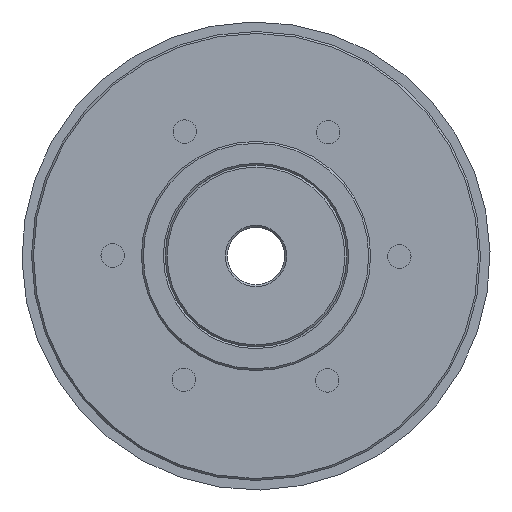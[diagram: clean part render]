
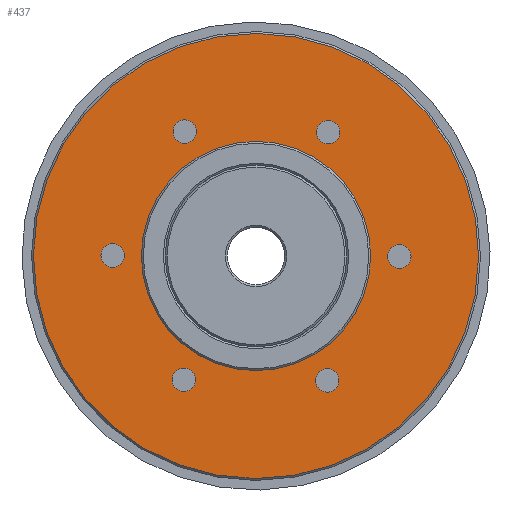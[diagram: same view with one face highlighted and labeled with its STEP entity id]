
A CAD part, left-side view. The second image highlights one B-rep face of the part: STEP entity #437.
In plain terms, the highlighted planar face has unit normal (-1, 0, 0).
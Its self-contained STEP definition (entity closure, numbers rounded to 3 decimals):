
#437 = ADVANCED_FACE( '', ( #874, #875, #876, #877, #878, #879, #880, #881 ), #882, .T. );
#874 = FACE_BOUND( '', #1363, .T. );
#875 = FACE_BOUND( '', #1364, .T. );
#876 = FACE_BOUND( '', #1365, .T. );
#877 = FACE_BOUND( '', #1366, .T. );
#878 = FACE_BOUND( '', #1367, .T. );
#879 = FACE_BOUND( '', #1368, .T. );
#880 = FACE_OUTER_BOUND( '', #1369, .T. );
#881 = FACE_BOUND( '', #1370, .T. );
#882 = PLANE( '', #1371 );
#1363 = EDGE_LOOP( '', ( #2013 ) );
#1364 = EDGE_LOOP( '', ( #2014 ) );
#1365 = EDGE_LOOP( '', ( #2015 ) );
#1366 = EDGE_LOOP( '', ( #2016 ) );
#1367 = EDGE_LOOP( '', ( #2017 ) );
#1368 = EDGE_LOOP( '', ( #2018 ) );
#1369 = EDGE_LOOP( '', ( #2019 ) );
#1370 = EDGE_LOOP( '', ( #2020 ) );
#1371 = AXIS2_PLACEMENT_3D( '', #2021, #2022, #2023 );
#2013 = ORIENTED_EDGE( '', *, *, #2599, .T. );
#2014 = ORIENTED_EDGE( '', *, *, #2600, .T. );
#2015 = ORIENTED_EDGE( '', *, *, #2547, .T. );
#2016 = ORIENTED_EDGE( '', *, *, #2601, .T. );
#2017 = ORIENTED_EDGE( '', *, *, #2602, .T. );
#2018 = ORIENTED_EDGE( '', *, *, #2437, .T. );
#2019 = ORIENTED_EDGE( '', *, *, #2491, .T. );
#2020 = ORIENTED_EDGE( '', *, *, #2589, .F. );
#2021 = CARTESIAN_POINT( '', ( 5.5, 0., 12. ) );
#2022 = DIRECTION( '', ( -1., 0., 0. ) );
#2023 = DIRECTION( '', ( 0., 0., 1. ) );
#2437 = EDGE_CURVE( '', #2752, #2752, #2753, .T. );
#2491 = EDGE_CURVE( '', #2842, #2842, #2843, .T. );
#2547 = EDGE_CURVE( '', #2929, #2929, #2930, .T. );
#2589 = EDGE_CURVE( '', #2991, #2991, #2992, .T. );
#2599 = EDGE_CURVE( '', #3005, #3005, #3006, .T. );
#2600 = EDGE_CURVE( '', #3007, #3007, #3008, .T. );
#2601 = EDGE_CURVE( '', #3009, #3009, #3010, .T. );
#2602 = EDGE_CURVE( '', #3011, #3011, #3012, .T. );
#2752 = VERTEX_POINT( '', #3206 );
#2753 = CIRCLE( '', #3207, 1.23 );
#2842 = VERTEX_POINT( '', #3321 );
#2843 = CIRCLE( '', #3322, 23.3 );
#2929 = VERTEX_POINT( '', #3487 );
#2930 = CIRCLE( '', #3488, 1.23 );
#2991 = VERTEX_POINT( '', #3660 );
#2992 = CIRCLE( '', #3661, 12. );
#3005 = VERTEX_POINT( '', #3675 );
#3006 = CIRCLE( '', #3676, 1.23 );
#3007 = VERTEX_POINT( '', #3677 );
#3008 = CIRCLE( '', #3678, 1.23 );
#3009 = VERTEX_POINT( '', #3679 );
#3010 = CIRCLE( '', #3680, 1.23 );
#3011 = VERTEX_POINT( '', #3681 );
#3012 = CIRCLE( '', #3682, 1.23 );
#3206 = CARTESIAN_POINT( '', ( 5.5, 0., 16.23 ) );
#3207 = AXIS2_PLACEMENT_3D( '', #3965, #3966, #3967 );
#3321 = CARTESIAN_POINT( '', ( 5.5, 0., 23.3 ) );
#3322 = AXIS2_PLACEMENT_3D( '', #4049, #4050, #4051 );
#3487 = CARTESIAN_POINT( '', ( 5.5, 0., -16.23 ) );
#3488 = AXIS2_PLACEMENT_3D( '', #4134, #4135, #4136 );
#3660 = CARTESIAN_POINT( '', ( 5.5, 0., 12. ) );
#3661 = AXIS2_PLACEMENT_3D( '', #4197, #4198, #4199 );
#3675 = CARTESIAN_POINT( '', ( 5.5, 14.055, 8.115 ) );
#3676 = AXIS2_PLACEMENT_3D( '', #4210, #4211, #4212 );
#3677 = CARTESIAN_POINT( '', ( 5.5, 14.055, -8.115 ) );
#3678 = AXIS2_PLACEMENT_3D( '', #4213, #4214, #4215 );
#3679 = CARTESIAN_POINT( '', ( 5.5, -14.055, -8.115 ) );
#3680 = AXIS2_PLACEMENT_3D( '', #4216, #4217, #4218 );
#3681 = CARTESIAN_POINT( '', ( 5.5, -14.055, 8.115 ) );
#3682 = AXIS2_PLACEMENT_3D( '', #4219, #4220, #4221 );
#3965 = CARTESIAN_POINT( '', ( 5.5, 0., 15. ) );
#3966 = DIRECTION( '', ( 1., 0., 0. ) );
#3967 = DIRECTION( '', ( 0., 0., 1. ) );
#4049 = CARTESIAN_POINT( '', ( 5.5, 0., 0. ) );
#4050 = DIRECTION( '', ( -1., 0., 0. ) );
#4051 = DIRECTION( '', ( 0., 0., 1. ) );
#4134 = CARTESIAN_POINT( '', ( 5.5, 0., -15. ) );
#4135 = DIRECTION( '', ( 1., 0., 0. ) );
#4136 = DIRECTION( '', ( 0., 0., -1. ) );
#4197 = CARTESIAN_POINT( '', ( 5.5, 0., 0. ) );
#4198 = DIRECTION( '', ( -1., 0., 0. ) );
#4199 = DIRECTION( '', ( 0., 0., 1. ) );
#4210 = CARTESIAN_POINT( '', ( 5.5, 12.99, 7.5 ) );
#4211 = DIRECTION( '', ( 1., 0., 0. ) );
#4212 = DIRECTION( '', ( 0., 0.866, 0.5 ) );
#4213 = CARTESIAN_POINT( '', ( 5.5, 12.99, -7.5 ) );
#4214 = DIRECTION( '', ( 1., 0., 0. ) );
#4215 = DIRECTION( '', ( 0., 0.866, -0.5 ) );
#4216 = CARTESIAN_POINT( '', ( 5.5, -12.99, -7.5 ) );
#4217 = DIRECTION( '', ( 1., 0., 0. ) );
#4218 = DIRECTION( '', ( 0., -0.866, -0.5 ) );
#4219 = CARTESIAN_POINT( '', ( 5.5, -12.99, 7.5 ) );
#4220 = DIRECTION( '', ( 1., 0., 0. ) );
#4221 = DIRECTION( '', ( 0., -0.866, 0.5 ) );
